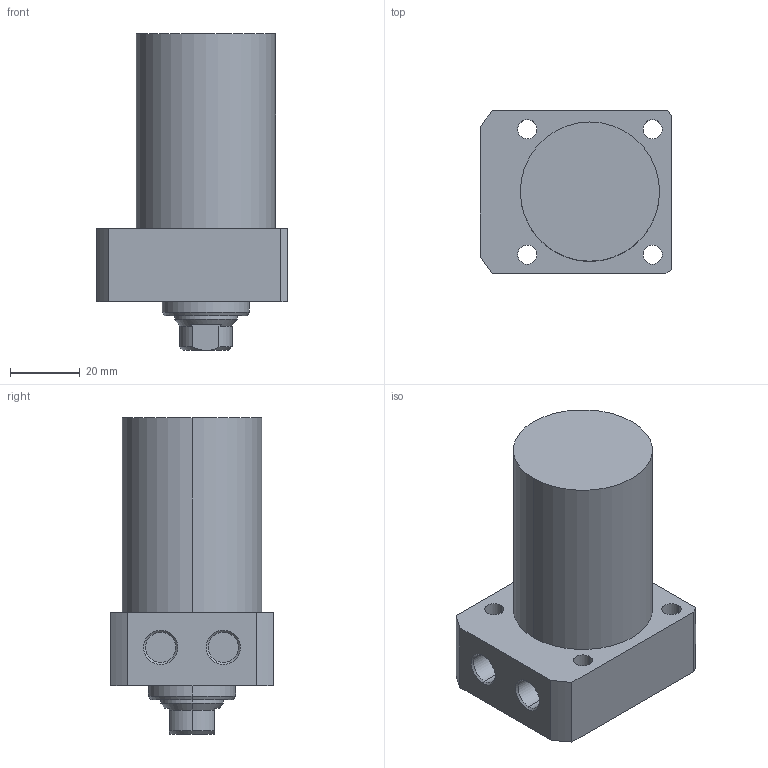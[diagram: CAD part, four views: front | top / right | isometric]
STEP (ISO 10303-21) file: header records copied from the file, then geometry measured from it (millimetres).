
FILE_DESCRIPTION (( 'STEP AP203' ), '1' );
FILE_NAME ('CLL-R040-CA-045.STEP', '2017-05-10T11:51:20', ( '' ), ( '' ), 'SwSTEP 2.0', 'SolidWorks 2015', '' );
FILE_SCHEMA (( 'CONFIG_CONTROL_DESIGN' ));
Length unit declared in the file: millimetre
Products named in the file (1): CLL-R040-CA-045
Bounding box: 55 x 47 x 91 mm (x, y, z)
Volume: 123436 mm3; surface area: 19501.2 mm2
Topology: 1 solids, 1 shells, 63 faces, 147 edges, 92 vertices
Faces by surface type: cylinder 29, plane 19, cone 15
Entity records: 1913 total; most frequent: DIRECTION 338, CARTESIAN_POINT 337, ORIENTED_EDGE 290, EDGE_CURVE 145, AXIS2_PLACEMENT_3D 137, VERTEX_POINT 92, EDGE_LOOP 79, CIRCLE 73
